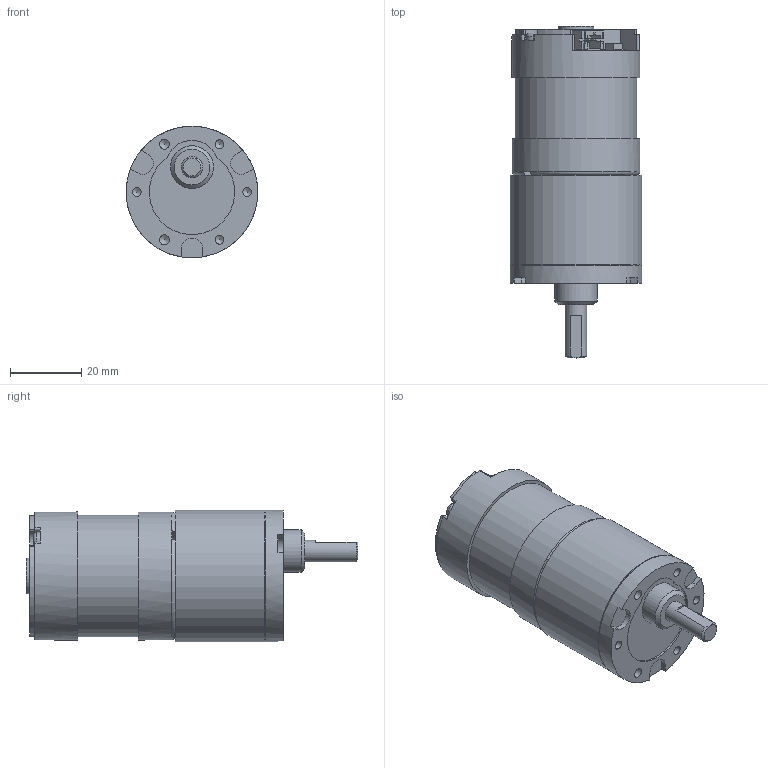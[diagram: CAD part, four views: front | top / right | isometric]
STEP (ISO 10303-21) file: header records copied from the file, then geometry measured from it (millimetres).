
FILE_DESCRIPTION((''),'2;1');
FILE_NAME('\\Servert1600\threepeace\2015homepage\STP\HP-Data_GM_3D_STEP\TP-3641AA,BA,CA,DA,EA（ドライバ内蔵）-KJ-360～900-P000-12,24.stp','2016-11-11T13:09:51',('Administrator'),(''),'Autodesk Inventor 2010','Autodesk Inventor 2010','');
FILE_SCHEMA(('AUTOMOTIVE_DESIGN { 1 0 10303 214 1 1 1 1 }'));
Length unit declared in the file: millimetre
Products named in the file (6): TP-3641AA,BA,CA,DA,EA（ドライバ内蔵）-KJ-360～900-P000-12,24; KJ-6; TP-3641AA,BA,CA-24; TP-3641BA,l; S2B-PH-SM4-TB; SMD-TRIMMERS
Assembly tree (5 placements, depth 3):
  TP-3641AA,BA,CA,DA,EA（ドライバ内蔵）-KJ-360～900-P000-12,24
    KJ-6
    TP-3641AA,BA,CA-24
      TP-3641BA,l
      S2B-PH-SM4-TB
      SMD-TRIMMERS
Bounding box: 37 x 93.3 x 37 mm (x, y, z)
Volume: 71702 mm3; surface area: 14403.6 mm2
Topology: 5 solids, 5 shells, 242 faces, 640 edges, 423 vertices
Faces by surface type: plane 152, cylinder 46, bspline 37, torus 4, cone 3
Full cylindrical faces by diameter (mm): 1.9 x1, 2.5 x2, 5 x1, 6 x1, 10 x2, 12 x1, 34.1 x1, 36 x2, 36.6 x1, 37 x2
Entity records: 7709 total; most frequent: CARTESIAN_POINT 1866, DIRECTION 1127, ORIENTED_EDGE 1094, EDGE_CURVE 547, VECTOR 387, LINE 387, VERTEX_POINT 384, AXIS2_PLACEMENT_3D 370
